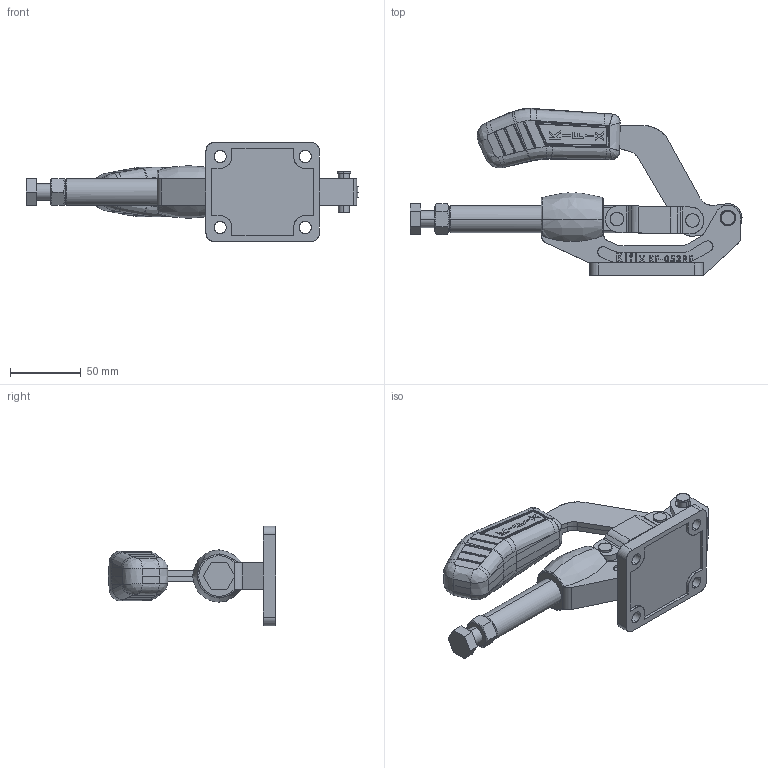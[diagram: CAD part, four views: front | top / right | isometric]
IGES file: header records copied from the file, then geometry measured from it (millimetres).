
Start section: SolidWorks IGES file using analytic representation for surfaces
Global section: file name: G:\Grampos\KF-052\KF-052 RF\KF-052 RF.IGS; native system: SolidWorks 2018; preprocessor: SolidWorks 2018; author: Ricardo.Sandi; date: 181023.162547; units: millimetre
Bounding box: 234.09 x 117.85 x 70 mm (x, y, z)
Surface area: 89363.6 mm2 (no closed solid volume)
Topology: 0 solids, 0 shells, 1090 faces, 12797 edges, 12773 vertices
Faces by surface type: bspline 846, revolution 244
